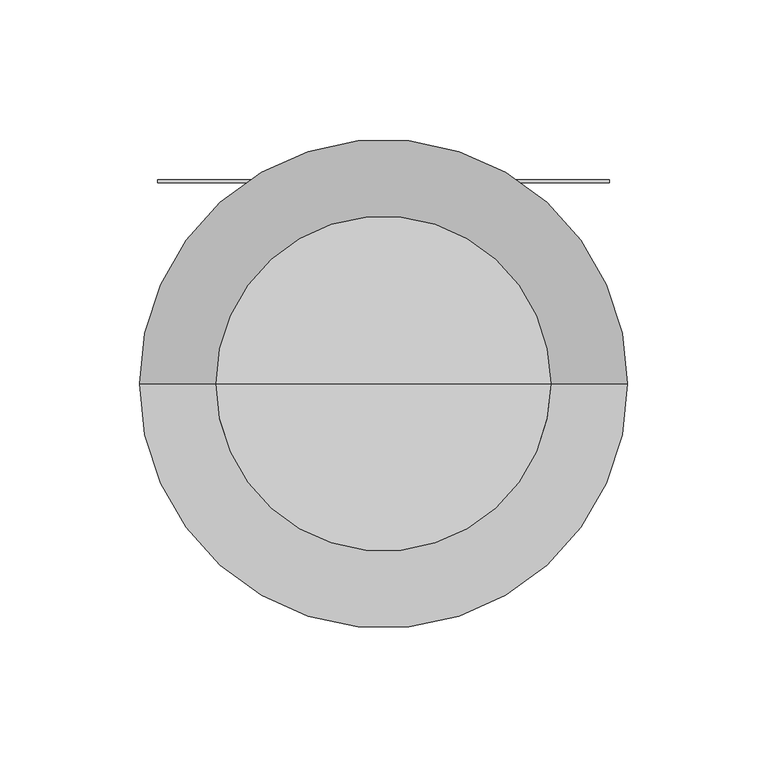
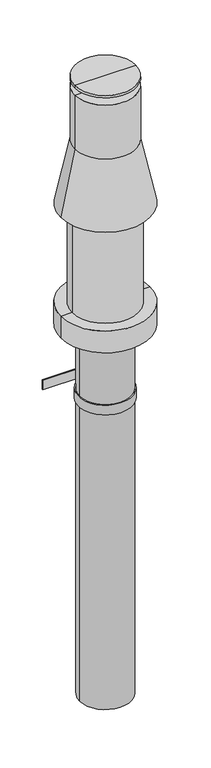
"""IFC4 building model written with IfcOpenShell, lengths in millimetres: air terminal geometry, NLRS_57_AIR_WPB_Skyline_M&G : EasySafe Skyline 3000 PP 60/100 Terra."""

from ifc_helpers import new_model, si_unit, point, frame, origin, origin_2d, place, context, project, spatial, polyline, circle_curve, trimmed, segment, composite_curve, outline, extrude, source, transform, mapped, element, save
from ifc_brep_helpers import plane_surface, cylinder_surface, revolved_surface, advanced_brep


def air_terminal_4db5a4d0(model_context):
    return source(origin(), model_context, "Body", "SolidModel", [
        extrude(outline(composite_curve([segment(trimmed(circle_curve(origin_2d(), 50.0), [point((-50.0, 0.0))], [point((50.0, 0.0))], False, "CARTESIAN"), True, "CONTINUOUS"), segment(trimmed(circle_curve(origin_2d(), 50.0), [point((50.0, 0.0))], [point((-50.0, 0.0))], False, "CARTESIAN"), True, "CONTINUOUS")], self_intersect=False)), frame((0.0, 0.0, -766.0), z_axis=(0.0, 0.0, 1.0), x_axis=(1.0, 0.0, 0.0)), (0.0, 0.0, 1.0), 766.0),
        advanced_brep(
        [(60.0, 0.0, 514.0), (-60.0, 0.0, 514.0), (0.0, 0.0, 514.0), (87.5, 0.0, 250.0), (-87.5, 0.0, 250.0), (-60.0, 0.0, 382.0), (60.0, 0.0, 382.0), (0.0, 0.0, 250.0), (60.0, 0.0, 509.0), (-60.0, 0.0, 509.0), (8.0, 0.0, 499.0), (-8.0, 0.0, 499.0), (8.0, 0.0, 494.0), (-8.0, 0.0, 494.0), (60.0, 0.0, 494.0), (-60.0, 0.0, 494.0)],
        [
            (0, 1, circle_curve(frame((0.0, 0.0, 514.0), z_axis=(0.0, 0.0, 1.0), x_axis=(-1.0, 0.0, 0.0)), 60.0)),
            (1, 2),
            (2, 0),
            (1, 0, circle_curve(frame((0.0, 0.0, 514.0), z_axis=(0.0, 0.0, 1.0), x_axis=(-1.0, 0.0, 0.0)), 60.0)),
            (3, 4, circle_curve(frame((0.0, 0.0, 250.0), z_axis=(0.0, 0.0, 1.0), x_axis=(-1.0, 0.0, 0.0)), 87.5)),
            (4, 5),
            (5, 6, circle_curve(frame((0.0, 0.0, 382.0), z_axis=(0.0, 0.0, -1.0), x_axis=(-1.0, 0.0, 0.0)), 60.0)),
            (6, 3),
            (4, 3, circle_curve(frame((0.0, 0.0, 250.0), z_axis=(0.0, 0.0, 1.0), x_axis=(-1.0, 0.0, 0.0)), 87.5)),
            (6, 5, circle_curve(frame((0.0, 0.0, 382.0), z_axis=(0.0, 0.0, -1.0), x_axis=(-1.0, 0.0, 0.0)), 60.0)),
            (7, 4),
            (3, 7),
            (8, 9, circle_curve(frame((0.0, 0.0, 509.0), z_axis=(0.0, 0.0, 1.0), x_axis=(-1.0, 0.0, 0.0)), 60.0)),
            (9, 1),
            (0, 8),
            (9, 8, circle_curve(frame((0.0, 0.0, 509.0), z_axis=(0.0, 0.0, 1.0), x_axis=(-1.0, 0.0, 0.0)), 60.0)),
            (10, 11, circle_curve(frame((0.0, 0.0, 499.0), z_axis=(0.0, 0.0, 1.0), x_axis=(-1.0, 0.0, 0.0)), 8.0)),
            (11, 9),
            (8, 10),
            (11, 10, circle_curve(frame((0.0, 0.0, 499.0), z_axis=(0.0, 0.0, 1.0), x_axis=(-1.0, 0.0, 0.0)), 8.0)),
            (12, 13, circle_curve(frame((0.0, 0.0, 494.0), z_axis=(0.0, 0.0, 1.0), x_axis=(-1.0, 0.0, 0.0)), 8.0)),
            (13, 11),
            (10, 12),
            (13, 12, circle_curve(frame((0.0, 0.0, 494.0), z_axis=(0.0, 0.0, 1.0), x_axis=(-1.0, 0.0, 0.0)), 8.0)),
            (14, 15, circle_curve(frame((0.0, 0.0, 494.0), z_axis=(0.0, 0.0, 1.0), x_axis=(-1.0, 0.0, 0.0)), 60.0)),
            (15, 13),
            (12, 14),
            (15, 14, circle_curve(frame((0.0, 0.0, 494.0), z_axis=(0.0, 0.0, 1.0), x_axis=(-1.0, 0.0, 0.0)), 60.0)),
            (5, 15),
            (14, 6),
        ],
        [
            plane_surface(frame((0.0, 0.0, 514.0), z_axis=(0.0, 0.0, 1.0), x_axis=(-1.0, 0.0, 0.0))),
            revolved_surface(polyline([(-60.0, 0.0, 382.0), (-87.5, 0.0, 250.0)]), (0.0, 0.0, 2217.3150031), (0.0, 0.0, -1.0)),
            plane_surface(frame((0.0, 0.0, 250.0), z_axis=(0.0, 0.0, -1.0), x_axis=(-1.0, 0.0, 0.0))),
            cylinder_surface(frame((0.0, 0.0, 2217.3150031), z_axis=(0.0, 0.0, -1.0), x_axis=(-1.0, 0.0, 0.0)), 60.0),
            revolved_surface(polyline([(-60.0, 0.0, 509.0), (-8.0, 0.0, 499.0)]), (0.0, 0.0, 2217.3150031), (0.0, 0.0, -1.0)),
            cylinder_surface(frame((0.0, 0.0, 2217.3150031), z_axis=(0.0, 0.0, -1.0), x_axis=(-1.0, 0.0, 0.0)), 8.0),
            plane_surface(frame((0.0, 0.0, 494.0), z_axis=(0.0, 0.0, 1.0), x_axis=(-1.0, 0.0, 0.0))),
        ],
        [
            (0, [[1, 2, 3]]),
            (0, [[4, -3, -2]]),
            (1, [[5, 6, 7, 8]]),
            (1, [[9, -8, 10, -6]]),
            (2, [[11, -5, 12]]),
            (2, [[-12, -9, -11]]),
            (3, [[13, 14, -1, 15]]),
            (3, [[16, -15, -4, -14]]),
            (4, [[17, 18, -13, 19]]),
            (4, [[20, -19, -16, -18]]),
            (5, [[21, 22, -17, 23]]),
            (5, [[24, -23, -20, -22]]),
            (6, [[25, 26, -21, 27]]),
            (6, [[28, -27, -24, -26]]),
            (3, [[-7, 29, -25, 30]]),
            (3, [[-10, -30, -28, -29]]),
        ],
    ),
        advanced_brep(
        [(65.0, 0.0, 250.0), (-65.0, 0.0, 250.0), (0.0, 0.0, 250.0), (87.5, 0.0, 0.0), (-87.5, 0.0, 0.0), (-87.5, 0.0, 45.0), (87.5, 0.0, 45.0), (0.0, 0.0, 0.0), (65.0, 0.0, 45.0), (-65.0, 0.0, 45.0)],
        [
            (0, 1, circle_curve(frame((0.0, 0.0, 250.0), z_axis=(0.0, 0.0, 1.0), x_axis=(-1.0, 0.0, 0.0)), 65.0)),
            (1, 2),
            (2, 0),
            (1, 0, circle_curve(frame((0.0, 0.0, 250.0), z_axis=(0.0, 0.0, 1.0), x_axis=(-1.0, 0.0, 0.0)), 65.0)),
            (3, 4, circle_curve(frame((0.0, 0.0, 0.0), z_axis=(0.0, 0.0, 1.0), x_axis=(-1.0, 0.0, 0.0)), 87.5)),
            (4, 5),
            (5, 6, circle_curve(frame((0.0, 0.0, 45.0), z_axis=(0.0, 0.0, -1.0), x_axis=(-1.0, 0.0, 0.0)), 87.5)),
            (6, 3),
            (4, 3, circle_curve(frame((0.0, 0.0, 0.0), z_axis=(0.0, 0.0, 1.0), x_axis=(-1.0, 0.0, 0.0)), 87.5)),
            (6, 5, circle_curve(frame((0.0, 0.0, 45.0), z_axis=(0.0, 0.0, -1.0), x_axis=(-1.0, 0.0, 0.0)), 87.5)),
            (7, 4),
            (3, 7),
            (8, 9, circle_curve(frame((0.0, 0.0, 45.0), z_axis=(0.0, 0.0, 1.0), x_axis=(-1.0, 0.0, 0.0)), 65.0)),
            (9, 1),
            (0, 8),
            (9, 8, circle_curve(frame((0.0, 0.0, 45.0), z_axis=(0.0, 0.0, 1.0), x_axis=(-1.0, 0.0, 0.0)), 65.0)),
            (5, 9),
            (8, 6),
        ],
        [
            plane_surface(frame((0.0, 0.0, 250.0), z_axis=(0.0, 0.0, 1.0), x_axis=(-1.0, 0.0, 0.0))),
            cylinder_surface(frame((0.0, 0.0, 2261.3150031), z_axis=(0.0, 0.0, -1.0), x_axis=(-1.0, 0.0, 0.0)), 87.5),
            plane_surface(frame((0.0, 0.0, 0.0), z_axis=(0.0, 0.0, -1.0), x_axis=(-1.0, 0.0, 0.0))),
            cylinder_surface(frame((0.0, 0.0, 2261.3150031), z_axis=(0.0, 0.0, -1.0), x_axis=(-1.0, 0.0, 0.0)), 65.0),
            plane_surface(frame((0.0, 0.0, 45.0), z_axis=(0.0, 0.0, 1.0), x_axis=(-1.0, 0.0, 0.0))),
        ],
        [
            (0, [[1, 2, 3]]),
            (0, [[4, -3, -2]]),
            (1, [[5, 6, 7, 8]]),
            (1, [[9, -8, 10, -6]]),
            (2, [[11, -5, 12]]),
            (2, [[-12, -9, -11]]),
            (3, [[13, 14, -1, 15]]),
            (3, [[16, -15, -4, -14]]),
            (4, [[-7, 17, -13, 18]]),
            (4, [[-10, -18, -16, -17]]),
        ],
    ),
        extrude(outline(composite_curve([segment(polyline([(1.8164811, 49.9669931), (1.8164811, 73.1677389), (81.0701934, 73.1677389), (81.0701934, 72.1677389), (3.816042, 72.1677389), (3.816042, 52.3634882)]), True, "CONTINUOUS"), segment(trimmed(circle_curve(origin_2d(), 52.5023531), [point((3.816042, 52.3634882))], [point((-3.6692432, 52.3739795))], False, "CARTESIAN"), True, "CONTINUOUS"), segment(polyline([(-3.6692432, 52.3739795), (-3.6692432, 72.1677389), (-80.9233946, 72.1677389), (-80.9233946, 73.1677389), (-1.8164811, 73.1677389), (-1.8164811, 49.9669931)]), True, "CONTINUOUS"), segment(trimmed(circle_curve(origin_2d(), 50.0), [point((-1.8164811, 49.9669931))], [point((1.8164811, 49.9669931))], True, "CARTESIAN"), True, "CONTINUOUS")], self_intersect=False)), frame((0.0, 0.0, -153.4259715), z_axis=(0.0, 0.0, 1.0), x_axis=(1.0, 0.0, 0.0)), (0.0, 0.0, 1.0), 20.0),
    ])


if __name__ == "__main__":
    model = new_model("IFC4")
    model_context = context("Model", 3, world=origin())
    ifc_project = project(units=[si_unit("LENGTHUNIT", "METRE", prefix="MILLI")], contexts=[model_context])
    site = spatial("IfcSite", under=ifc_project)
    building = spatial("IfcBuilding", under=site)
    placement = place(None, origin())
    air_terminal_shape = air_terminal_4db5a4d0(model_context)
    element("IfcAirTerminal", 1, ObjectType="NLRS_57_AIR_WPB_Skyline_M&G : EasySafe Skyline 3000 PP 60/100 Terra", at=placement, inside=building, context=model_context, shape_type="MappedRepresentation", body=[
        mapped(air_terminal_shape, transform((0.0, 0.0, 0.0), x_axis=(1.0, 0.0, 0.0), y_axis=(0.0, 1.0, 0.0), z_axis=(0.0, 0.0, 1.0))),
    ])
    save(model, "model.ifc")
